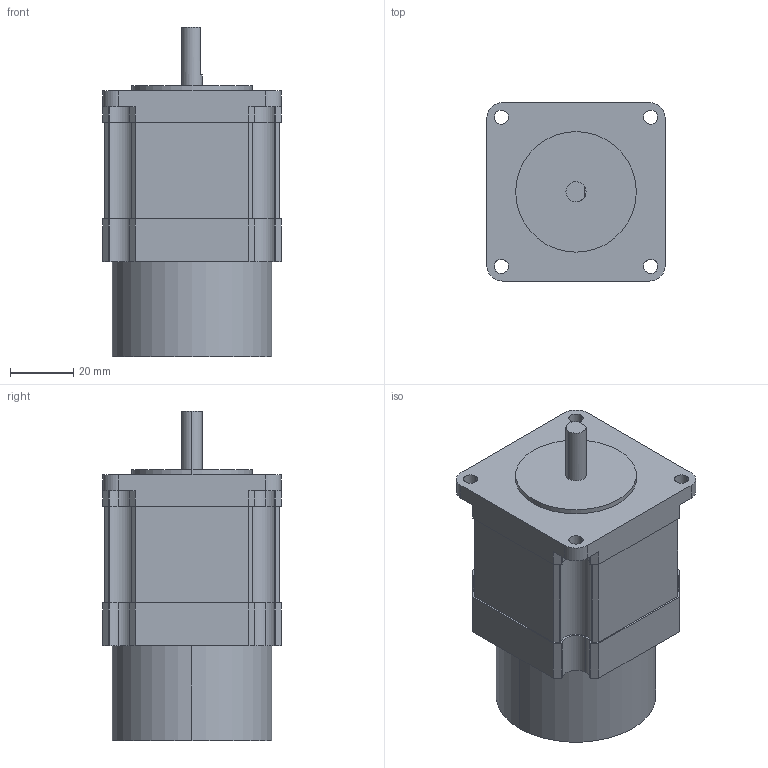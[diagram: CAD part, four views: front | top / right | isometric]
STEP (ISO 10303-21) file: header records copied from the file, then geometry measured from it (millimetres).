
FILE_DESCRIPTION (( 'STEP AP214' ), '1' );
FILE_NAME ('K266-02M.STEP', '2016-09-08T09:20:58', ( 'hoho' ), ( '' ), 'SwSTEP 2.0', 'SolidWorks 2013', '' );
FILE_SCHEMA (( 'AUTOMOTIVE_DESIGN' ));
Length unit declared in the file: millimetre
Products named in the file (1): K266-02M
Bounding box: 56.4 x 56.4 x 104 mm (x, y, z)
Volume: 214314.2 mm3; surface area: 23776.1 mm2
Topology: 1 solids, 1 shells, 115 faces, 324 edges, 216 vertices
Faces by surface type: cylinder 66, plane 49
Entity records: 4130 total; most frequent: DIRECTION 690, CARTESIAN_POINT 656, ORIENTED_EDGE 648, EDGE_CURVE 324, AXIS2_PLACEMENT_3D 250, VERTEX_POINT 216, LINE 190, VECTOR 190
